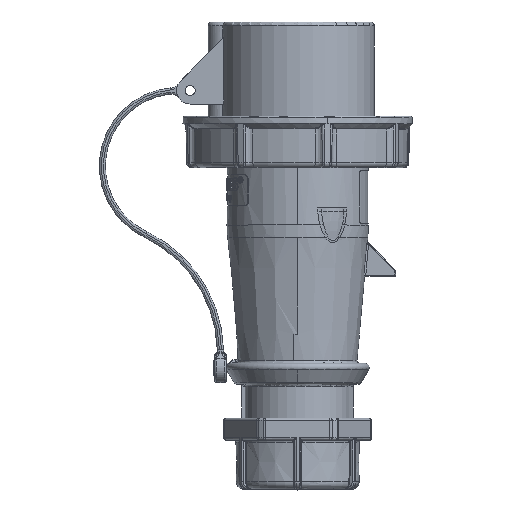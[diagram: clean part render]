
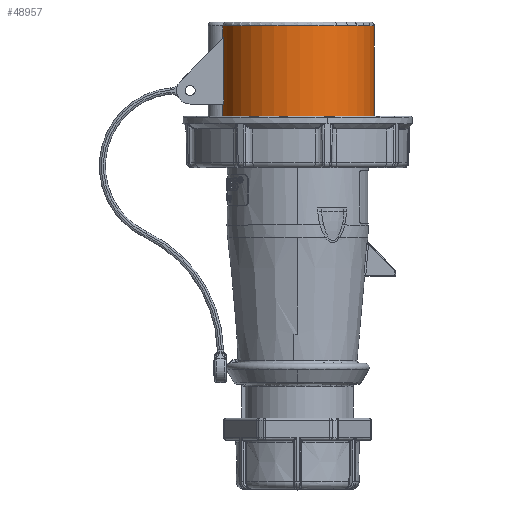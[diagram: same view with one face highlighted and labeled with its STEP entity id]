
A CAD part, top view. The second image highlights one B-rep face of the part: STEP entity #48957.
In plain terms, the highlighted cylindrical face has radius 31.35 mm (diameter 62.7 mm), a partial arc.
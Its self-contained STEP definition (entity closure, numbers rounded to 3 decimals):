
#10116=DIRECTION('',(0.,1.,0.));
#10117=VECTOR('',#10116,6.);
#10118=CARTESIAN_POINT('',(-30.572,35.,-6.939));
#10119=LINE('5311',#10118,#10117);
#10231=CARTESIAN_POINT('',(0.,35.,0.));
#10232=DIRECTION('',(0.,1.,0.));
#10233=DIRECTION('',(-0.975,0.,0.221));
#10234=AXIS2_PLACEMENT_3D('',#10231,#10232,#10233);
#10624=DIRECTION('',(0.,1.,0.));
#10625=VECTOR('',#10624,6.);
#10626=CARTESIAN_POINT('',(-30.572,35.,6.939));
#10627=LINE('5309',#10626,#10625);
#10628=DIRECTION('',(0.,1.,0.));
#10629=VECTOR('',#10628,5.294);
#10630=CARTESIAN_POINT('',(-30.572,67.706,
6.939));
#10631=LINE('5310',#10630,#10629);
#10632=DIRECTION('',(0.,-1.,0.));
#10633=VECTOR('',#10632,27.061);
#10634=CARTESIAN_POINT('',(-30.218,68.061,-8.35));
#10635=LINE('5250',#10634,#10633);
#10663=CARTESIAN_POINT('',(-30.218,68.061,-8.35));
#10664=CARTESIAN_POINT('',(-30.346,67.932,
-7.885));
#10665=CARTESIAN_POINT('',(-30.464,67.814,
-7.415));
#10666=CARTESIAN_POINT('',(-30.572,67.706,
-6.939));
#10668=CARTESIAN_POINT('',(-30.572,67.706,
-6.939));
#10696=CARTESIAN_POINT('',(-30.572,67.706,
6.939));
#10698=CARTESIAN_POINT('',(-30.572,67.706,
6.939));
#10699=CARTESIAN_POINT('',(-30.464,67.814,
7.415));
#10700=CARTESIAN_POINT('',(-30.346,67.932,
7.885));
#10701=CARTESIAN_POINT('',(-30.218,68.061,8.35));
#10750=DIRECTION('',(0.,-1.,0.));
#10751=VECTOR('',#10750,27.061);
#10752=CARTESIAN_POINT('',(-30.218,68.061,8.35));
#10753=LINE('5249',#10752,#10751);
#10782=CARTESIAN_POINT('',(0.,41.,0.));
#10783=DIRECTION('',(0.,1.,0.));
#10784=DIRECTION('',(-0.975,0.,0.221));
#10785=AXIS2_PLACEMENT_3D('',#10782,#10783,#10784);
#10847=CARTESIAN_POINT('',(0.,41.,0.));
#10848=DIRECTION('',(0.,1.,0.));
#10849=DIRECTION('',(-0.964,0.,-0.266));
#10850=AXIS2_PLACEMENT_3D('',#10847,#10848,#10849);
#10864=DIRECTION('',(0.,1.,0.));
#10865=VECTOR('',#10864,5.294);
#10866=CARTESIAN_POINT('',(-30.572,67.706,
-6.939));
#10867=LINE('5312',#10866,#10865);
#10911=CARTESIAN_POINT('',(0.,73.,0.));
#10912=DIRECTION('',(0.,1.,0.));
#10913=DIRECTION('',(-0.975,0.,0.221));
#10914=AXIS2_PLACEMENT_3D('',#10911,#10912,#10913);
#24764=CARTESIAN_POINT('',(-30.572,35.,6.939));
#24765=CARTESIAN_POINT('',(-30.572,35.,-6.939));
#24766=VERTEX_POINT('',#24764);
#24767=VERTEX_POINT('',#24765);
#24772=CARTESIAN_POINT('',(-30.572,73.,6.939));
#24773=CARTESIAN_POINT('',(-30.572,73.,-6.939));
#24774=VERTEX_POINT('',#24772);
#24775=VERTEX_POINT('',#24773);
#24776=CARTESIAN_POINT('',(-30.218,68.061,8.35));
#24777=CARTESIAN_POINT('',(-30.218,41.,8.35));
#24778=VERTEX_POINT('',#24776);
#24779=VERTEX_POINT('',#24777);
#24780=CARTESIAN_POINT('',(-30.218,68.061,-8.35));
#24781=CARTESIAN_POINT('',(-30.218,41.,-8.35));
#24782=VERTEX_POINT('',#24780);
#24783=VERTEX_POINT('',#24781);
#24801=VERTEX_POINT('',#10696);
#24803=CARTESIAN_POINT('',(-30.572,41.,6.939));
#24805=VERTEX_POINT('',#24803);
#24822=VERTEX_POINT('',#10668);
#24824=CARTESIAN_POINT('',(-30.572,41.,-6.939));
#24826=VERTEX_POINT('',#24824);
#48929=CARTESIAN_POINT('',(0.,24.,0.));
#48930=DIRECTION('',(0.,1.,0.));
#48931=DIRECTION('',(0.,0.,1.));
#48932=AXIS2_PLACEMENT_3D('',#48929,#48930,#48931);
#48933=CYLINDRICAL_SURFACE('1318',#48932,31.35);
#48935=ORIENTED_EDGE('5250',*,*,#48934,.T.);
#48937=ORIENTED_EDGE('5304',*,*,#48936,.T.);
#48938=ORIENTED_EDGE('5311',*,*,#47993,.F.);
#48939=ORIENTED_EDGE('5244',*,*,#48181,.F.);
#48940=ORIENTED_EDGE('5309',*,*,#48005,.T.);
#48942=ORIENTED_EDGE('5300',*,*,#48941,.T.);
#48944=ORIENTED_EDGE('5249',*,*,#48943,.F.);
#48946=ORIENTED_EDGE('5299',*,*,#48945,.F.);
#48948=ORIENTED_EDGE('5310',*,*,#48947,.T.);
#48950=ORIENTED_EDGE('5246',*,*,#48949,.T.);
#48952=ORIENTED_EDGE('5312',*,*,#48951,.F.);
#48954=ORIENTED_EDGE('5303',*,*,#48953,.F.);
#48955=EDGE_LOOP('1318',(#48935,#48937,#48938,#48939,#48940,#48942,#48944,
#48946,#48948,#48950,#48952,#48954));
#48956=FACE_OUTER_BOUND('1318',#48955,.F.);
#10235=CIRCLE('5244',#10234,31.35);
#10667=B_SPLINE_CURVE_WITH_KNOTS('5303',3,(#10663,#10664,#10665,#10666),
.UNSPECIFIED.,.F.,.F.,(4,4),(0.,1.),.UNSPECIFIED.);
#10702=B_SPLINE_CURVE_WITH_KNOTS('5299',3,(#10698,#10699,#10700,#10701),
.UNSPECIFIED.,.F.,.F.,(4,4),(0.,1.),.UNSPECIFIED.);
#10786=CIRCLE('5300',#10785,31.35);
#10851=CIRCLE('5304',#10850,31.35);
#10915=CIRCLE('5246',#10914,31.35);
#47993=EDGE_CURVE('5311',#24767,#24826,#10119,.T.);
#48005=EDGE_CURVE('5309',#24766,#24805,#10627,.T.);
#48181=EDGE_CURVE('5244',#24766,#24767,#10235,.T.);
#48934=EDGE_CURVE('5250',#24782,#24783,#10635,.T.);
#48936=EDGE_CURVE('5304',#24783,#24826,#10851,.T.);
#48941=EDGE_CURVE('5300',#24805,#24779,#10786,.T.);
#48943=EDGE_CURVE('5249',#24778,#24779,#10753,.T.);
#48945=EDGE_CURVE('5299',#24801,#24778,#10702,.T.);
#48947=EDGE_CURVE('5310',#24801,#24774,#10631,.T.);
#48949=EDGE_CURVE('5246',#24774,#24775,#10915,.T.);
#48951=EDGE_CURVE('5312',#24822,#24775,#10867,.T.);
#48953=EDGE_CURVE('5303',#24782,#24822,#10667,.T.);
#48957=ADVANCED_FACE('1318',(#48956),#48933,.T.);
